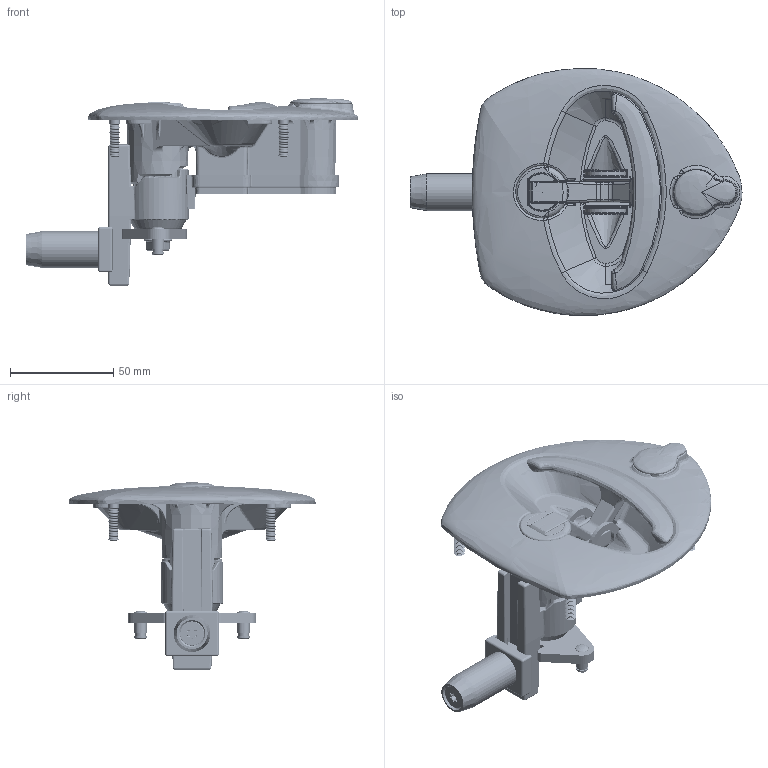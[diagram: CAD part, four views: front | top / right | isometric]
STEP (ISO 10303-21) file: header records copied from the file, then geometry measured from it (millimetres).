
FILE_DESCRIPTION (( 'STEP AP214' ), '1' );
FILE_NAME ('272063-68-S_____Industrilas.step', '2024-03-03T20:37:56', ( '' ), ( '' ), 'SwSTEP 2.0', 'SolidWorks 2010', '' );
FILE_SCHEMA (( 'AUTOMOTIVE_DESIGN' ));
Length unit declared in the file: millimetre
Products named in the file (1): 272063-68-S_____Industrilas
Bounding box: 161.15 x 119.9 x 90.88 mm (x, y, z)
Volume: 136137.6 mm3; surface area: 101404.3 mm2
Topology: 24 solids, 24 shells, 4277 faces, 10582 edges, 6371 vertices
Faces by surface type: bspline 1654, plane 1063, cylinder 793, cone 467, torus 237, sphere 63
Full cylindrical faces by diameter (mm): 0.477 x1, 2.5 x3, 3 x1, 3.6 x1, 4 x2, 4.134 x80, 4.2 x1, 4.9 x2, 5 x10, 5.2 x6, 5.4 x2, 5.6 x1, 6 x65, 6.1 x2, 6.2 x2, 6.4 x1, 6.5 x2, 7 x9, 7.9 x1, 10 x1, 10.2 x1, 11.8 x1, 12.5 x2, 13 x2, 13.5 x3, 14 x1, 17 x2, 17.9 x1, 18 x1, 19 x1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
Entity records: 278127 total; most frequent: CARTESIAN_POINT 145940, ORIENTED_EDGE 19420, DIRECTION 14012, EDGE_CURVE 9710, VERTEX_POINT 6174, AXIS2_PLACEMENT_3D 5332, EDGE_LOOP 5014, FACE_OUTER_BOUND 4511
